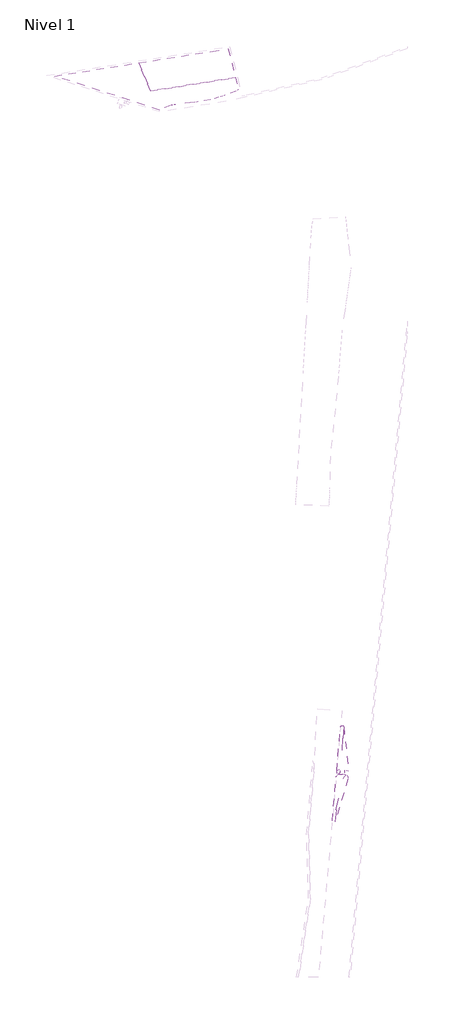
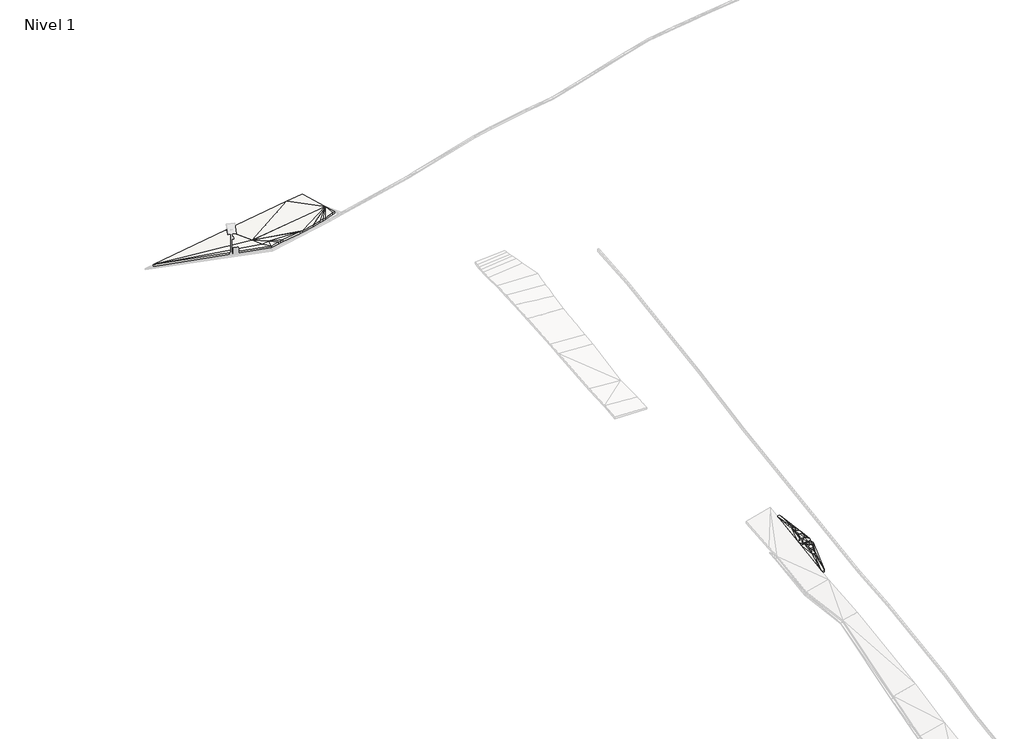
# One storey, part 2 of 45: 4 slabs.
"""IFC4 building model written with IfcOpenShell, lengths in millimetres."""

from ifc_helpers import new_model, si_unit, frame, origin, place, context, project, spatial, circle_curve, faceted_brep, element, save
from ifc_brep_helpers import plane_surface, cylinder_surface, spline_surface, advanced_brep

model = new_model("IFC4")

# Units and contexts
model_context = context("Model", 3, world=origin())
ifc_project = project(units=[si_unit("LENGTHUNIT", "METRE", prefix="MILLI")], contexts=[model_context])

# Site, building, storey
site = spatial("IfcSite", under=ifc_project)
building = spatial("IfcBuilding", under=site)
storey = spatial("IfcBuildingStorey", under=building, Name="Nivel 1", Elevation=0.0)

# Slabs
placement = place(None, origin())
element("IfcSlab", 1, ObjectType="Tierra de Chacra (50cm)", at=placement, inside=storey, context=model_context, shape_type="Brep", body=[
    faceted_brep([(-214605.8709473, -584189.4946046, 2846.5235337), (-214605.8709473, -584189.4946046, 3346.5235337), (-203337.4229653, -582411.4212803, 3434.9028744), (-200458.3355056, -581957.1237037, 3430.3855708), (-200458.3355056, -581957.1237037, 2930.3855708), (-203337.4229653, -582411.4212803, 2934.9028744), (-199286.9548967, -586530.4404212, 3600.0), (-199286.9548967, -586530.4404212, 3100.0), (-212711.5388925, -588648.7352154, 3600.0), (-212711.5388925, -588648.7352154, 3100.0)], [[[0, 1, 2, 3, 4, 5]], [[4, 3, 6, 7]], [[7, 6, 8, 9]], [[9, 8, 1, 0]], [[8, 6, 2]], [[9, 5, 7]], [[8, 2, 1]], [[6, 3, 2]], [[9, 0, 5]], [[7, 5, 4]]]),
])
element("IfcSlab", 2, ObjectType="Girasol Silvestre", at=placement, inside=storey, context=model_context, shape_type="Brep", body=[
    faceted_brep([(-227929.9128446, -586291.9246381, 2857.0), (-227929.9128446, -586291.9246381, 3157.0), (-214605.8709473, -584189.4946046, 3346.5235337), (-214605.8709473, -584189.4946046, 3046.5235337), (-212711.5388925, -588648.7352154, 3600.0), (-212711.5388925, -588648.7352154, 3300.0), (-199286.9548967, -586530.4404212, 3600.0), (-199286.9548967, -586530.4404212, 3300.0), (-198791.9475636, -588463.053352, 3720.0), (-198791.9475636, -588463.053352, 3420.0), (-209681.045062, -590988.7644648, 3300.0), (-209681.045062, -590988.7644648, 3600.0), (-211275.227181, -591665.9897039, 3880.0), (-211275.227181, -591665.9897039, 3580.0), (-199210.5864613, -588656.8058947, 3740.0), (-199210.5864613, -588656.8058947, 3440.0), (-200915.9879606, -589347.8554003, 3814.3627015), (-200915.9879606, -589347.8554003, 3514.3627015), (-201343.2495588, -589455.7048612, 3810.6369502), (-201343.2495588, -589455.7048612, 3510.6369502), (-201939.9399211, -589626.8370673, 3812.0645264), (-201939.9399211, -589626.8370673, 3512.0645264), (-203270.6974609, -590072.2608808, 3835.85584), (-203270.6974609, -590072.2608808, 3535.85584), (-205254.1318211, -590334.0768144, 3741.3644216), (-205254.1318211, -590334.0768144, 3441.3644216), (-205683.9672257, -590450.6060649, 3740.2116166), (-205683.9672257, -590450.6060649, 3440.2116166), (-208812.0316945, -590802.733779, 3600.0), (-208812.0316945, -590802.733779, 3300.0), (-209216.0276751, -590889.2176617, 3600.0), (-209216.0276751, -590889.2176617, 3300.0), (-210777.3691596, -590142.2257161, 3650.0), (-210777.3691596, -590142.2257161, 3350.0), (-211956.8226776, -590234.1646654, 3600.0), (-211956.8226776, -590234.1646654, 3300.0)], [[[0, 1, 2, 3]], [[3, 2, 4, 5]], [[5, 4, 6, 7]], [[7, 6, 8, 9]], [[10, 11, 12, 13]], [[13, 12, 1, 0]], [[4, 2, 1]], [[5, 0, 3]], [[9, 8, 14, 15]], [[15, 14, 16, 17]], [[17, 16, 18, 19]], [[19, 18, 20, 21]], [[21, 20, 22, 23]], [[23, 22, 24, 25]], [[25, 24, 26, 27]], [[27, 26, 28, 29]], [[29, 28, 30, 31]], [[31, 30, 11, 10]], [[12, 11, 32]], [[6, 4, 24]], [[13, 33, 10]], [[7, 25, 5]], [[12, 34, 1]], [[13, 0, 35]], [[4, 34, 32]], [[4, 1, 34]], [[12, 32, 34]], [[5, 33, 35]], [[5, 35, 0]], [[13, 35, 33]], [[11, 30, 28, 32]], [[4, 32, 26]], [[28, 26, 32]], [[10, 33, 29, 31]], [[5, 27, 33]], [[29, 33, 27]], [[4, 26, 24]], [[5, 25, 27]], [[6, 24, 22]], [[6, 22, 20]], [[7, 23, 25]], [[7, 21, 23]], [[6, 20, 18]], [[7, 19, 21]], [[6, 18, 16]], [[7, 17, 19]], [[6, 16, 14]], [[7, 15, 17]], [[6, 14, 8]], [[7, 9, 15]]]),
])
element("IfcSlab", 3, ObjectType="Lippia", at=placement, inside=storey, context=model_context, shape_type="AdvancedBrep", body=[
    advanced_brep(
    [(-182806.3742206, -696735.4883873, 4700.0), (-182806.3742206, -696735.4883873, 5000.0), (-181915.9101008, -696815.5121007, 5000.0), (-181915.9101008, -696815.5121007, 4700.0), (-181480.9632714, -697456.1862832, 5000.0), (-181480.9632714, -697456.1862832, 4700.0), (-183473.8570029, -704231.970058, 5000.0), (-183473.8570029, -704231.970058, 4700.0), (-183966.2331915, -704138.2411218, 4700.0), (-183966.2331915, -704138.2411218, 5000.0), (-183347.3395846, -697188.3197303, 5000.0), (-183347.3395846, -697188.3197303, 4700.0), (-182182.1019668, -697458.7084732, 5300.0), (-182636.2415316, -697248.151503, 5300.0), (-182182.1019668, -697458.7084732, 5000.0), (-182636.2415316, -697248.151503, 5000.0), (-182571.1829569, -699136.4501452, 5500.0), (-182399.5385994, -698903.0238309, 5500.0), (-182227.8942418, -698669.5975165, 5500.0), (-182312.8363702, -698300.2855735, 5500.0), (-182757.7595738, -698362.4906805, 5500.0), (-182879.5136938, -698624.4029621, 5500.0), (-182980.0676284, -698840.7103069, 5500.0), (-182899.4460108, -699206.0555535, 5500.0), (-182571.1829569, -699136.4501452, 5200.0), (-182899.4460108, -699206.0555535, 5200.0), (-182980.0676284, -698840.7103069, 5200.0), (-182879.5136938, -698624.4029621, 5200.0), (-182757.7595738, -698362.4906805, 5200.0), (-182312.8363702, -698300.2855735, 5200.0), (-182227.8942418, -698669.5975165, 5200.0), (-182399.5385994, -698903.0238309, 5200.0), (-182990.6788258, -697456.1344768, 5300.0), (-182867.9136181, -697259.3453471, 5300.0), (-182990.6788258, -697456.1344768, 5000.0), (-182867.9136181, -697259.3453471, 5000.0), (-181928.041622, -697718.6144124, 5300.0), (-181928.041622, -697718.6144124, 5000.0), (-181917.1096309, -698081.9025178, 5300.0), (-182734.9495074, -700413.0157934, 5300.0), (-182734.9495074, -700413.0157934, 5000.0), (-181917.1096309, -698081.9025178, 5000.0), (-183220.0476353, -700310.2043524, 5300.0), (-183220.0476353, -700310.2043524, 5000.0), (-183022.6755652, -700574.8216425, 5300.0), (-183022.6755652, -700574.8216425, 5000.0)],
    [
        (0, 1),
        (1, 2),
        (2, 3),
        (3, 0),
        (2, 4, circle_curve(frame((-181960.1868636, -697313.5512671, 5000.0), z_axis=(0.0, 0.0, -1.0), x_axis=(1.0, 0.0, 0.0)), 499.9999992)),
        (4, 5),
        (5, 3, circle_curve(frame((-181960.1868636, -697313.5512671, 4700.0), z_axis=(0.0, 0.0, 1.0), x_axis=(1.0, 0.0, 0.0)), 499.9999992)),
        (4, 6),
        (6, 7),
        (7, 5),
        (8, 9),
        (9, 10),
        (10, 11),
        (11, 8),
        (10, 1, circle_curve(frame((-182848.2404431, -697235.0158656, 5000.0), z_axis=(0.0, 0.0, -1.0), x_axis=(1.0, 0.0, 0.0)), 501.2788467)),
        (0, 11, circle_curve(frame((-182848.2404431, -697235.0158656, 4700.0), z_axis=(0.0, 0.0, 1.0), x_axis=(1.0, 0.0, 0.0)), 501.2788467)),
        (2, 12),
        (12, 4),
        (1, 13),
        (13, 2),
        (5, 14),
        (14, 3),
        (3, 15),
        (15, 0),
        (16, 17),
        (17, 18),
        (18, 19),
        (19, 20),
        (20, 21),
        (21, 22),
        (22, 23),
        (23, 16),
        (24, 25),
        (25, 26),
        (26, 27),
        (27, 28),
        (28, 29),
        (29, 30),
        (30, 31),
        (31, 24),
        (20, 32),
        (32, 22),
        (10, 32),
        (32, 33),
        (33, 10),
        (19, 32),
        (26, 34),
        (34, 28),
        (11, 35),
        (35, 34),
        (34, 11),
        (34, 29),
        (32, 12),
        (12, 13),
        (13, 33),
        (19, 12),
        (12, 36),
        (36, 4),
        (35, 15),
        (15, 14),
        (14, 34),
        (14, 29),
        (5, 37),
        (37, 14),
        (4, 38),
        (38, 39),
        (39, 4),
        (19, 38),
        (38, 36),
        (36, 19),
        (5, 40),
        (40, 41),
        (41, 5),
        (29, 37),
        (37, 41),
        (41, 29),
        (22, 42),
        (42, 23),
        (23, 39),
        (39, 16),
        (39, 18),
        (25, 43),
        (43, 26),
        (24, 40),
        (40, 25),
        (30, 40),
        (42, 39),
        (40, 43),
        (1, 33),
        (35, 0),
        (10, 42),
        (42, 32),
        (42, 44),
        (44, 39),
        (18, 38),
        (34, 43),
        (43, 11),
        (40, 45),
        (45, 43),
        (41, 30),
        (6, 9, circle_curve(frame((-183715.4670107, -704161.0560182, 5000.0), z_axis=(0.0, 0.0, -1.0), x_axis=(1.0, 0.0, 0.0)), 251.8019001)),
        (8, 7, circle_curve(frame((-183715.4670107, -704161.0560182, 4700.0), z_axis=(0.0, 0.0, 1.0), x_axis=(1.0, 0.0, 0.0)), 251.8019001)),
        (44, 9),
        (6, 44),
        (9, 42),
        (6, 39),
        (45, 7),
        (8, 45),
        (43, 8),
        (40, 7),
    ],
    [
        plane_surface(frame((-182806.3742206, -696735.4883873, 4700.0), z_axis=(0.08950671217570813, 0.9959862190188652, 0.0), x_axis=(0.0, 0.0, 1.0))),
        cylinder_surface(frame((-181960.1868636, -697313.5512671, 5000.0), z_axis=(0.0, 0.0, -1.0), x_axis=(1.0, 0.0, 0.0)), 499.9999992),
        plane_surface(frame((-181480.9632714, -697456.1862832, 4700.0), z_axis=(0.9593648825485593, -0.2821684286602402, 0.0), x_axis=(0.0, 0.0, 1.0))),
        plane_surface(frame((-183966.2331915, -704138.2411218, 4700.0), z_axis=(-0.996058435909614, 0.08869944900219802, 0.0), x_axis=(0.0, 0.0, 1.0))),
        cylinder_surface(frame((-182848.2404431, -697235.0158656, 5000.0), z_axis=(0.0, 0.0, -1.0), x_axis=(1.0, 0.0, 0.0)), 501.2788467),
        spline_surface(2, 1, [[(-181480.9632714, -697456.1862832, 5000.0), (-182182.1019668, -697458.7084732, 5300.0)], [(-181413.3155347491, -697228.9041455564, 5000.0), (-182182.1019668, -697458.7084732, 5300.0)], [(-181546.51086866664, -697032.7093714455, 5000.0), (-182182.1019668, -697458.7084732, 5300.0)], [(-181679.7062026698, -696836.514597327, 5000.0), (-182182.1019668, -697458.7084732, 5300.0)], [(-181915.9104058, -696815.5155309, 5000.0), (-182182.1019668, -697458.7084732, 5300.0)]], [3, 2, 3], [2, 2], [0.0, 1.0, 2.0], [0.0, 1.0], weights=[[1.0, 1.0], [0.9035324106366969, 0.9035324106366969], [1.0, 1.0], [0.9035324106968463, 0.9035324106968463], [1.0, 1.0]]),
        plane_surface(frame((-182452.841951, -696933.0506637, 5100.0), z_axis=(0.0463656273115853, 0.5159336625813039, 0.8553728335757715), x_axis=(-0.9959862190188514, 0.08950671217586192, 0.0))),
        spline_surface(1, 2, [[(-181480.9632714, -697456.1862832, 4700.0), (-181413.3155347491, -697228.9041455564, 4700.0), (-181546.51086866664, -697032.7093714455, 4700.0), (-181679.7062026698, -696836.514597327, 4700.0), (-181915.9104058, -696815.5155309, 4700.0)], [(-182182.1019668, -697458.7084732, 5000.0), (-182182.1019668, -697458.7084732, 5000.0), (-182182.1019668, -697458.7084732, 5000.0), (-182182.1019668, -697458.7084732, 5000.0), (-182182.1019668, -697458.7084732, 5000.0)]], [2, 2], [3, 2, 3], [0.0, 1.0], [0.0, 1.0, 2.0], weights=[[1.0, 0.9035324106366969, 1.0, 0.9035324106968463, 1.0], [1.0, 0.9035324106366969, 1.0, 0.9035324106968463, 1.0]]),
        plane_surface(frame((-182452.841951, -696933.0506637, 4800.0), z_axis=(-0.0463656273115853, -0.5159336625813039, -0.8553728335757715), x_axis=(-0.9959862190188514, 0.08950671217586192, 0.0))),
        plane_surface(frame((-182624.8644637, -698752.598296, 5500.0), z_axis=(0.0, 0.0, 1.0), x_axis=(0.5924069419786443, 0.8056388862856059, 0.0))),
        plane_surface(frame((-182624.8644637, -698752.598296, 5200.0), z_axis=(0.0, 0.0, -1.0), x_axis=(0.5924069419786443, 0.8056388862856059, 0.0))),
        plane_surface(frame((-182909.5020094, -698219.7784881, 5433.3333333), z_axis=(-0.28967515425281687, 0.13466013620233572, 0.9476048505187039), x_axis=(0.42154416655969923, 0.9068078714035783, 0.0))),
        plane_surface(frame((-183068.6440095, -697301.2665181, 5200.0), z_axis=(-0.47474294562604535, 0.29616430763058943, 0.8287978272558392), x_axis=(0.6635257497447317, -0.4982381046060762, 0.5581150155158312))),
        plane_surface(frame((-182687.09159, -698039.6369103, 5433.3333333), z_axis=(-0.029115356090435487, 0.20824813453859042, 0.9776425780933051), x_axis=(-0.6156961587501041, 0.766757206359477, -0.18166349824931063))),
        plane_surface(frame((-182909.5020094, -698219.7784881, 5133.3333333), z_axis=(0.28967515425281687, -0.13466013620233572, -0.9476048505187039), x_axis=(0.42154416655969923, 0.9068078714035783, 0.0))),
        plane_surface(frame((-183068.6440095, -697301.2665181, 4900.0), z_axis=(0.47474294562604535, -0.29616430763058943, -0.8287978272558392), x_axis=(0.6635257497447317, -0.4982381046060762, 0.5581150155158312))),
        plane_surface(frame((-182687.09159, -698039.6369103, 5133.3333333), z_axis=(0.029115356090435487, -0.20824813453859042, -0.9776425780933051), x_axis=(-0.6156961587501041, 0.766757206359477, -0.18166349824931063))),
        plane_surface(frame((-182669.2339856, -697355.58495, 5300.0), z_axis=(0.0, 0.0, 1.0), x_axis=(0.9999949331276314, -0.003183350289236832, 0.0))),
        plane_surface(frame((-182495.2057209, -697738.3761745, 5366.6666667), z_axis=(0.0007356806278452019, 0.23110146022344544, 0.9729293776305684), x_axis=(0.14943822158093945, 0.9619792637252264, -0.22861346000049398))),
        plane_surface(frame((-181863.7022867, -697544.5030563, 5200.0), z_axis=(0.3662198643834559, 0.35798314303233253, 0.8589127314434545), x_axis=(-0.919371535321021, -0.00330723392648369, 0.39337646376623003))),
        plane_surface(frame((-182244.7511997, -697174.1240256, 5200.0), z_axis=(0.16659880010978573, 0.35932843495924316, 0.9182199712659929), x_axis=(-0.8073484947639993, -0.4849028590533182, 0.33624042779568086))),
        plane_surface(frame((-182669.2339856, -697355.58495, 5000.0), z_axis=(0.0, 0.0, -1.0), x_axis=(0.9999949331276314, -0.003183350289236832, 0.0))),
        plane_surface(frame((-182495.2057209, -697738.3761745, 5066.6666667), z_axis=(-0.0007356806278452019, -0.23110146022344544, -0.9729293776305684), x_axis=(0.14943822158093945, 0.9619792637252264, -0.22861346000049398))),
        plane_surface(frame((-181863.7022867, -697544.5030563, 4900.0), z_axis=(-0.3662198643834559, -0.35798314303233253, -0.8589127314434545), x_axis=(-0.919371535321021, -0.00330723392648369, 0.39337646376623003))),
        plane_surface(frame((-182244.7511997, -697174.1240256, 4900.0), z_axis=(-0.16659880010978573, -0.35932843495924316, -0.9182199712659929), x_axis=(-0.8073484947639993, -0.4849028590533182, 0.33624042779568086))),
        plane_surface(frame((-182044.3408032, -698650.3681981, 5200.0), z_axis=(0.7798051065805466, -0.27358417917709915, 0.5630769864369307), x_axis=(-0.5321452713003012, -0.7634408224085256, 0.36603213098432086))),
        plane_surface(frame((-182052.662541, -698033.6008345, 5366.6666667), z_axis=(0.44512625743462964, 0.013394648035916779, 0.8953676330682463), x_axis=(0.8006483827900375, 0.44184034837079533, -0.40464709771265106))),
        plane_surface(frame((-182044.3408032, -698650.3681981, 4900.0), z_axis=(-0.7798051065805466, 0.27358417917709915, -0.5630769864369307), x_axis=(-0.5321452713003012, -0.7634408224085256, 0.36603213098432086))),
        plane_surface(frame((-182052.662541, -698033.6008345, 5066.6666667), z_axis=(-0.44512625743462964, -0.013394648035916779, -0.8953676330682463), x_axis=(0.8006483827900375, 0.44184034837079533, -0.40464709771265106))),
        plane_surface(frame((-183033.1870915, -699452.3234043, 5433.3333333), z_axis=(-0.33317899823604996, -0.07352341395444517, 0.9399925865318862), x_axis=(-0.21548804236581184, 0.9765064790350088, 0.0))),
        plane_surface(frame((-182735.192825, -699585.1738307, 5433.3333333), z_axis=(0.033695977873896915, -0.1589121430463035, 0.9867175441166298), x_axis=(-0.9782499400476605, -0.20742963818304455, 0.0))),
        plane_surface(frame((-182511.3422354, -699406.354485, 5433.3333333), z_axis=(0.2457854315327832, -0.1807323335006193, 0.9523262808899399), x_axis=(-0.12573495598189, -0.9801081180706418, -0.15355389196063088))),
        plane_surface(frame((-183033.1870915, -699452.3234043, 5133.3333333), z_axis=(0.33317899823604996, 0.07352341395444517, -0.9399925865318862), x_axis=(-0.21548804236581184, 0.9765064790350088, 0.0))),
        plane_surface(frame((-182735.192825, -699585.1738307, 5133.3333333), z_axis=(-0.033695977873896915, 0.1589121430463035, -0.9867175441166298), x_axis=(-0.9782499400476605, -0.20742963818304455, 0.0))),
        plane_surface(frame((-182511.3422354, -699406.354485, 5133.3333333), z_axis=(-0.2457854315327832, 0.1807323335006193, -0.9523262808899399), x_axis=(-0.12573495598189, -0.9801081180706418, -0.15355389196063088))),
        plane_surface(frame((-182951.4810512, -699976.4252331, 5366.6666667), z_axis=(-0.035626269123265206, -0.1680964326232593, 0.9851265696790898), x_axis=(-0.27471876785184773, -0.9461286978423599, -0.1713770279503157))),
        plane_surface(frame((-182951.4810512, -699976.4252331, 5066.6666667), z_axis=(0.035626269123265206, 0.1680964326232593, -0.9851265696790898), x_axis=(-0.27471876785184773, -0.9461286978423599, -0.1713770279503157))),
        plane_surface(frame((-182770.1764568, -697080.9950791, 5200.0), z_axis=(-0.02410764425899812, 0.4989410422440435, 0.8663005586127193), x_axis=(-0.10141531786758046, -0.8633025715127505, 0.4943921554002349))),
        spline_surface(2, 1, [[(-182806.3742206, -696735.4883873, 5000.0), (-182867.9136181, -697259.3453471, 5300.0)], [(-183301.09297208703, -696694.0251920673, 5000.0), (-182867.9136181, -697259.3453471, 5300.0)], [(-183347.3395846, -697188.3197303, 5000.0), (-182867.9136181, -697259.3453471, 5300.0)]], [3, 3], [2, 2], [0.0, 1.0], [0.0, 1.0], weights=[[1.0, 1.0], [0.7105184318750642, 0.7105184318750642], [1.0, 1.0]]),
        plane_surface(frame((-182770.1764568, -697080.9950791, 4900.0), z_axis=(0.02410764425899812, -0.4989410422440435, -0.8663005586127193), x_axis=(-0.10141531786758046, -0.8633025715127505, 0.4943921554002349))),
        spline_surface(1, 2, [[(-182806.3742206, -696735.4883873, 4700.0), (-183301.09297208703, -696694.0251920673, 4700.0), (-183347.3395846, -697188.3197303, 4700.0)], [(-182867.9136181, -697259.3453471, 5000.0), (-182867.9136181, -697259.3453471, 5000.0), (-182867.9136181, -697259.3453471, 5000.0)]], [2, 2], [3, 3], [0.0, 1.0], [0.0, 1.0], weights=[[1.0, 0.7105184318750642, 1.0], [1.0, 0.7105184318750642, 1.0]]),
        plane_surface(frame((-182140.9933197, -697825.8694864, 5366.6666667), z_axis=(0.20129640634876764, 0.19676901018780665, 0.9595632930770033), x_axis=(0.5303563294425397, 0.8017078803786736, -0.27565674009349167))),
        plane_surface(frame((-182140.9933197, -697825.8694864, 5066.6666667), z_axis=(-0.20129640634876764, -0.19676901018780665, -0.9595632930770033), x_axis=(0.5303563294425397, 0.8017078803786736, -0.27565674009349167))),
        plane_surface(frame((-183186.0220153, -698318.2195199, 5200.0), z_axis=(-0.6206987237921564, 0.04988277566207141, 0.7824607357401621), x_axis=(0.04055371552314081, -0.9945956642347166, 0.0955764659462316))),
        plane_surface(frame((-182992.5575693, -700432.6805961, 5300.0), z_axis=(0.0, 0.0, 1.0), x_axis=(-0.9782701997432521, 0.20733406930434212, 0.0))),
        plane_surface(frame((-182152.6134143, -698350.5952026, 5433.3333333), z_axis=(0.40740723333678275, 0.09370408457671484, 0.908426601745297), x_axis=(0.22414864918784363, -0.9745549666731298, 0.0))),
        plane_surface(frame((-181775.3715081, -697752.2344045, 5200.0), z_axis=(0.5504040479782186, 0.01656264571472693, 0.8347341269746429), x_axis=(-0.7464301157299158, -0.4381430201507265, 0.5008720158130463))),
        plane_surface(frame((-183186.0220153, -698318.2195199, 4900.0), z_axis=(0.6206987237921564, -0.04988277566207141, -0.7824607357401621), x_axis=(0.04055371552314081, -0.9945956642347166, 0.0955764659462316))),
        plane_surface(frame((-182992.5575693, -700432.6805961, 5000.0), z_axis=(0.0, 0.0, -1.0), x_axis=(-0.9782701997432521, 0.20733406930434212, 0.0))),
        plane_surface(frame((-182152.6134143, -698350.5952026, 5133.3333333), z_axis=(-0.40740723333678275, -0.09370408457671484, -0.908426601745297), x_axis=(0.22414864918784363, -0.9745549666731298, 0.0))),
        plane_surface(frame((-181775.3715081, -697752.2344045, 4900.0), z_axis=(-0.5504040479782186, -0.01656264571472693, -0.8347341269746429), x_axis=(-0.7464301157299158, -0.4381430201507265, 0.5008720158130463))),
        plane_surface(frame((-183063.5980299, -698869.0163787, 5366.6666667), z_axis=(-0.8519212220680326, 0.06846509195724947, 0.5191750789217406), x_axis=(-0.0075849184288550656, 0.9896993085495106, -0.14296065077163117))),
        plane_surface(frame((-183063.5980299, -698869.0163787, 5066.6666667), z_axis=(0.8519212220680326, -0.06846509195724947, -0.5191750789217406), x_axis=(-0.0075849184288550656, 0.9896993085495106, -0.14296065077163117))),
        plane_surface(frame((-182293.3177933, -699054.8386092, 5366.6666667), z_axis=(0.8461782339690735, -0.296870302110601, 0.4425499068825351), x_axis=(-0.2775891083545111, -0.9544401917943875, -0.10949067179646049))),
        plane_surface(frame((-182293.3177933, -699054.8386092, 5066.6666667), z_axis=(-0.8461782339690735, 0.296870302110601, -0.4425499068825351), x_axis=(-0.2775891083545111, -0.9544401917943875, -0.10949067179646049))),
        cylinder_surface(frame((-183715.4670107, -704161.0560182, 5000.0), z_axis=(0.0, 0.0, -1.0), x_axis=(1.0, 0.0, 0.0)), 251.8019001),
        spline_surface(2, 1, [[(-183966.2331915, -704138.2411218, 5000.0), (-183022.6755652, -700574.8216425, 5300.0)], [(-183986.9279527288, -704365.7041856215, 5000.0), (-183022.6755652, -700574.8216425, 5300.0)], [(-183762.55455944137, -704408.4159981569, 5000.0), (-183022.6755652, -700574.8216425, 5300.0)], [(-183538.1811661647, -704451.1278107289, 5000.0), (-183022.6755652, -700574.8216425, 5300.0)], [(-183473.8570029, -704231.970058, 5000.0), (-183022.6755652, -700574.8216425, 5300.0)]], [3, 2, 3], [2, 2], [0.0, 1.0, 2.0], [0.0, 1.0], weights=[[1.0, 1.0], [0.7406838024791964, 0.7406838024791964], [1.0, 1.0], [0.7406838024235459, 0.7406838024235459], [1.0, 1.0]]),
        plane_surface(frame((-183511.2068038, -700545.5884015, 5100.0), z_axis=(-0.5941124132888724, 0.052905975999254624, 0.8026402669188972), x_axis=(-0.08869944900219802, -0.996058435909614, 0.0))),
        plane_surface(frame((-183402.985464, -701674.4223722, 5200.0), z_axis=(-0.08285402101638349, -0.06179894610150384, 0.9946437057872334), x_axis=(-0.19076196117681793, -0.9786356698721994, -0.07669484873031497))),
        plane_surface(frame((-183077.1606918, -701739.9358313, 5200.0), z_axis=(0.049318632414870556, -0.08769927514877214, 0.9949253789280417), x_axis=(-0.8716273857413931, -0.49016905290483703, 0.0))),
        plane_surface(frame((-182563.2565939, -700700.3907115, 5100.0), z_axis=(0.6054862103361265, -0.17808562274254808, 0.775675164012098), x_axis=(-0.3887451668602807, -0.9166393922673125, 0.0930022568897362))),
        spline_surface(1, 2, [[(-183966.2331915, -704138.2411218, 4700.0), (-183986.9279527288, -704365.7041856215, 4700.0), (-183762.55455944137, -704408.4159981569, 4700.0), (-183538.1811661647, -704451.1278107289, 4700.0), (-183473.8570029, -704231.970058, 4700.0)], [(-183022.6755652, -700574.8216425, 5000.0), (-183022.6755652, -700574.8216425, 5000.0), (-183022.6755652, -700574.8216425, 5000.0), (-183022.6755652, -700574.8216425, 5000.0), (-183022.6755652, -700574.8216425, 5000.0)]], [2, 2], [3, 2, 3], [0.0, 1.0], [0.0, 1.0, 2.0], weights=[[1.0, 0.7406838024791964, 1.0, 0.7406838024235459, 1.0], [1.0, 0.7406838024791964, 1.0, 0.7406838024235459, 1.0]]),
        plane_surface(frame((-183511.2068038, -700545.5884015, 4800.0), z_axis=(0.5941124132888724, -0.052905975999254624, -0.8026402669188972), x_axis=(-0.08869944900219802, -0.996058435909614, 0.0))),
        plane_surface(frame((-183402.985464, -701674.4223722, 4900.0), z_axis=(0.08285402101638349, 0.06179894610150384, -0.9946437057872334), x_axis=(-0.19076196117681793, -0.9786356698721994, -0.07669484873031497))),
        plane_surface(frame((-183077.1606918, -701739.9358313, 4900.0), z_axis=(-0.049318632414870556, 0.08769927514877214, -0.9949253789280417), x_axis=(-0.8716273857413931, -0.49016905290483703, 0.0))),
        plane_surface(frame((-182563.2565939, -700700.3907115, 4800.0), z_axis=(-0.6054862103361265, 0.17808562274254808, -0.775675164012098), x_axis=(-0.3887451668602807, -0.9166393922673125, 0.0930022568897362))),
    ],
    [
        (0, [[1, 2, 3, 4]]),
        (1, [[-3, 5, 6, 7]]),
        (2, [[-6, 8, 9, 10]]),
        (3, [[11, 12, 13, 14]]),
        (4, [[-13, 15, -1, 16]]),
        (5, [[-5, 17, 18]]),
        (6, [[-2, 19, 20]]),
        (7, [[21, 22, -7]]),
        (8, [[23, 24, -4]]),
        (9, [[25, 26, 27, 28, 29, 30, 31, 32]]),
        (10, [[33, 34, 35, 36, 37, 38, 39, 40]]),
        (11, [[-29, 41, 42, -30]]),
        (12, [[43, 44, 45]]),
        (13, [[46, -41, -28]]),
        (14, [[-35, 47, 48, -36]]),
        (15, [[49, 50, 51]]),
        (16, [[-37, -48, 52]]),
        (17, [[53, 54, 55, -44]]),
        (18, [[56, -53, -46]]),
        (19, [[-18, 57, 58]]),
        (20, [[-20, -54, -17]]),
        (21, [[-50, 59, 60, 61]]),
        (22, [[-52, -61, 62]]),
        (23, [[63, 64, -21]]),
        (24, [[-22, -60, -23]]),
        (25, [[65, 66, 67]]),
        (26, [[68, 69, 70]]),
        (27, [[71, 72, 73]]),
        (28, [[74, 75, 76]]),
        (29, [[-31, 77, 78]]),
        (30, [[-32, 79, 80]]),
        (31, [[-80, 81, -26, -25]]),
        (32, [[82, 83, -34]]),
        (33, [[84, 85, -33]]),
        (34, [[-40, -39, 86, -84]]),
        (35, [[-78, 87, -79]]),
        (36, [[-85, 88, -82]]),
        (37, [[89, -55, -19]]),
        (38, [[-45, -89, -15]]),
        (39, [[-24, -59, 90]]),
        (40, [[-16, -90, -49]]),
        (41, [[-70, -57, -56]]),
        (42, [[-62, -64, -74]]),
        (43, [[91, 92, -43]]),
        (44, [[-87, 93, 94]]),
        (45, [[-27, 95, -68]]),
        (46, [[-58, -69, -65]]),
        (47, [[-51, 96, 97]]),
        (48, [[98, 99, -88]]),
        (49, [[-76, 100, -38]]),
        (50, [[-73, -75, -63]]),
        (51, [[-42, -92, -77]]),
        (52, [[-83, -96, -47]]),
        (53, [[-81, -66, -95]]),
        (54, [[-100, -72, -86]]),
        (55, [[-9, 101, -11, 102]]),
        (56, [[103, -101, 104]]),
        (57, [[-12, 105, -91]]),
        (58, [[-105, -103, -93]]),
        (59, [[-94, -104, 106]]),
        (60, [[-67, -106, -8]]),
        (61, [[107, -102, 108]]),
        (62, [[-97, 109, -14]]),
        (63, [[-99, -108, -109]]),
        (64, [[110, -107, -98]]),
        (65, [[-10, -110, -71]]),
    ],
),
])
element("IfcSlab", 4, ObjectType="Lippia", at=placement, inside=storey, context=model_context, shape_type="AdvancedBrep", body=[
    advanced_brep(
    [(-181956.8629594, -696811.9087039, 4700.0), (-181956.8629594, -696811.9087039, 5000.0), (-182806.4815672, -696737.1516634, 5000.0), (-182806.4815672, -696737.1516634, 4700.0), (-181369.9989395, -696261.0919211, 4700.0), (-181369.9989395, -696261.0919211, 5000.0), (-182140.9192345, -689241.295213, 4700.0), (-182140.9192345, -689241.295213, 5000.0), (-183258.9770709, -696196.0449392, 4700.0), (-183258.9770709, -696196.0449392, 5000.0), (-182638.6691957, -689230.2418945, 5000.0), (-182638.6691957, -689230.2418945, 4700.0), (-181895.9200343, -694935.467778, 5500.0), (-182151.4673675, -694415.3773249, 5500.0), (-182464.7179689, -694302.3505946, 5500.0), (-182620.1820508, -694600.8435536, 5500.0), (-182545.2927579, -694865.0013045, 5500.0), (-182470.3805144, -695167.4184055, 5500.0), (-182044.6803396, -695284.0030674, 5500.0), (-182061.2920464, -696147.3561091, 5300.0), (-182549.9209311, -696275.7823695, 5300.0), (-181895.9200343, -694935.467778, 5200.0), (-182044.6803396, -695284.0030674, 5200.0), (-182470.3805144, -695167.4184055, 5200.0), (-182545.2927579, -694865.0013045, 5200.0), (-182620.1820508, -694600.8435536, 5200.0), (-182464.7179689, -694302.3505946, 5200.0), (-182151.4673675, -694415.3773249, 5200.0), (-182061.2920464, -696147.3561091, 5000.0), (-182549.9209311, -696275.7823695, 5000.0), (-182089.5808938, -693143.0206024, 5300.0), (-182585.2038573, -693158.7630825, 5300.0), (-182089.5808938, -693143.0206024, 5000.0), (-182585.2038573, -693158.7630825, 5000.0), (-182862.3015434, -696009.7962978, 5300.0), (-182758.2338929, -696238.6662001, 5300.0), (-182862.3015434, -696009.7962978, 5000.0), (-182758.2338929, -696238.6662001, 5000.0), (-181768.9564668, -695935.9474785, 5300.0), (-181768.9564668, -695935.9474785, 5000.0), (-181694.9843648, -695582.8443374, 5300.0), (-181694.9843648, -695582.8443374, 5000.0), (-182344.304857, -692933.0607972, 5300.0), (-182344.304857, -692933.0607972, 5000.0)],
    [
        (0, 1),
        (1, 2),
        (2, 3),
        (3, 0),
        (4, 5),
        (5, 1, circle_curve(frame((-181869.250197, -696317.2115857, 5000.0), z_axis=(0.0, 0.0, -1.0), x_axis=(-0.1764100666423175, -0.9843167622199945, 0.0)), 502.3954964)),
        (0, 4, circle_curve(frame((-181869.250197, -696317.2115857, 4700.0), z_axis=(0.0, 0.0, 1.0), x_axis=(-0.1764100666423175, -0.9843167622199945, 0.0)), 502.3954964)),
        (6, 7),
        (7, 5),
        (4, 6),
        (8, 9),
        (9, 10),
        (10, 11),
        (11, 8),
        (2, 9, circle_curve(frame((-182759.5378956, -696238.144495, 5000.0), z_axis=(0.0, 0.0, -1.0), x_axis=(-0.1764100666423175, -0.9843167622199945, 0.0)), 501.2103973)),
        (8, 3, circle_curve(frame((-182759.5378956, -696238.144495, 4700.0), z_axis=(0.0, 0.0, 1.0), x_axis=(-0.1764100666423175, -0.9843167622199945, 0.0)), 501.2103973)),
        (12, 13),
        (13, 14),
        (14, 15),
        (15, 16),
        (16, 17),
        (17, 18),
        (18, 12),
        (5, 19),
        (19, 1),
        (1, 20),
        (20, 2),
        (21, 22),
        (22, 23),
        (23, 24),
        (24, 25),
        (25, 26),
        (26, 27),
        (27, 21),
        (0, 28),
        (28, 4),
        (3, 29),
        (29, 0),
        (13, 30),
        (30, 14),
        (14, 31),
        (31, 15),
        (26, 32),
        (32, 27),
        (25, 33),
        (33, 26),
        (30, 31),
        (12, 30),
        (33, 32),
        (32, 21),
        (34, 9),
        (9, 35),
        (35, 34),
        (16, 34),
        (34, 17),
        (36, 37),
        (37, 8),
        (8, 36),
        (23, 36),
        (36, 24),
        (2, 35),
        (35, 20),
        (20, 19),
        (19, 34),
        (37, 3),
        (36, 28),
        (28, 29),
        (29, 37),
        (19, 17),
        (19, 18),
        (5, 38),
        (38, 19),
        (23, 28),
        (22, 28),
        (28, 39),
        (39, 4),
        (40, 18),
        (18, 38),
        (38, 40),
        (40, 5),
        (5, 30),
        (30, 40),
        (41, 39),
        (39, 22),
        (22, 41),
        (41, 32),
        (32, 4),
        (4, 41),
        (34, 15),
        (31, 34),
        (31, 9),
        (36, 33),
        (25, 36),
        (8, 33),
        (40, 12),
        (21, 41),
        (42, 31),
        (30, 42),
        (43, 32),
        (33, 43),
        (10, 7, circle_curve(frame((-182390.5237243, -689268.6196065, 5000.0), z_axis=(0.0, 0.0, -1.0), x_axis=(-0.1764100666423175, -0.9843167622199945, 0.0)), 251.0956467)),
        (6, 11, circle_curve(frame((-182390.5237243, -689268.6196065, 4700.0), z_axis=(0.0, 0.0, 1.0), x_axis=(-0.1764100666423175, -0.9843167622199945, 0.0)), 251.0956467)),
        (31, 10),
        (42, 10),
        (42, 7),
        (30, 7),
        (11, 33),
        (11, 43),
        (6, 43),
        (6, 32),
    ],
    [
        plane_surface(frame((-181956.8629594, -696811.9087039, 4700.0), z_axis=(-0.08765029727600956, -0.9961513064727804, 0.0), x_axis=(0.0, 0.0, 1.0))),
        cylinder_surface(frame((-181869.250197, -696317.2115857, 5000.0), z_axis=(0.0, 0.0, -1.0000000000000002), x_axis=(-0.1764100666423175, -0.9843167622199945, 0.0)), 502.3954964),
        plane_surface(frame((-182140.9192345, -689241.295213, 4700.0), z_axis=(0.9940236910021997, 0.10916456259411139, 0.0), x_axis=(0.0, 0.0, 1.0))),
        plane_surface(frame((-183258.9770709, -696196.0449392, 4700.0), z_axis=(-0.9960584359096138, 0.08869944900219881, 0.0), x_axis=(0.0, 0.0, 1.0))),
        cylinder_surface(frame((-182759.5378956, -696238.144495, 5000.0), z_axis=(0.0, 0.0, -1.0000000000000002), x_axis=(-0.1764100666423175, -0.9843167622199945, 0.0)), 501.2103973),
        plane_surface(frame((-182313.2344333, -694795.7802898, 5500.0), z_axis=(0.0, 0.0, 1.0), x_axis=(-0.4409932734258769, 0.8975104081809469, 0.0))),
        spline_surface(2, 1, [[(-181956.8629594, -696811.9087039, 5000.0), (-182061.2920464, -696147.3561091, 5300.0)], [(-181708.98393014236, -696855.8090334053, 5000.0), (-182061.2920464, -696147.3561091, 5300.0)], [(-181525.4314297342, -696683.5309684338, 5000.0), (-182061.2920464, -696147.3561091, 5300.0)], [(-181341.87892932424, -696511.2529034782, 5000.0), (-182061.2920464, -696147.3561091, 5300.0)], [(-181369.9989395, -696261.0919211, 5000.0), (-182061.2920464, -696147.3561091, 5300.0)]], [3, 2, 3], [2, 2], [0.0, 1.0, 2.0], [0.0, 1.0], weights=[[1.0, 1.0], [0.8940433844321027, 0.8940433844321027], [1.0, 1.0], [0.8940433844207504, 0.8940433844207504], [1.0, 1.0]]),
        plane_surface(frame((-182437.7551526, -696608.2809122, 5100.0), z_axis=(-0.046310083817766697, -0.5263171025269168, 0.8490263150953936), x_axis=(0.9961513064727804, -0.08765029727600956, 0.0))),
        plane_surface(frame((-182313.2344333, -694795.7802898, 5200.0), z_axis=(0.0, 0.0, -1.0), x_axis=(-0.4409932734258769, 0.8975104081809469, 0.0))),
        spline_surface(1, 2, [[(-181956.8629594, -696811.9087039, 4700.0), (-181708.98393014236, -696855.8090334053, 4700.0), (-181525.4314297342, -696683.5309684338, 4700.0), (-181341.87892932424, -696511.2529034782, 4700.0), (-181369.9989395, -696261.0919211, 4700.0)], [(-182061.2920464, -696147.3561091, 5000.0), (-182061.2920464, -696147.3561091, 5000.0), (-182061.2920464, -696147.3561091, 5000.0), (-182061.2920464, -696147.3561091, 5000.0), (-182061.2920464, -696147.3561091, 5000.0)]], [2, 2], [3, 2, 3], [0.0, 1.0], [0.0, 1.0, 2.0], weights=[[1.0, 0.8940433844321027, 1.0, 0.8940433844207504, 1.0], [1.0, 0.8940433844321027, 1.0, 0.8940433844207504, 1.0]]),
        plane_surface(frame((-182437.7551526, -696608.2809122, 4800.0), z_axis=(0.046310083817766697, 0.5263171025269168, -0.8490263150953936), x_axis=(0.9961513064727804, -0.08765029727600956, 0.0))),
        plane_surface(frame((-182235.2554101, -693953.5828406, 5433.3333333), z_axis=(0.055001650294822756, 0.15243562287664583, 0.9867817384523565), x_axis=(0.940641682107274, -0.339401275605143, 0.0))),
        plane_surface(frame((-182556.7012923, -694020.6524102, 5433.3333333), z_axis=(-0.2663943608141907, 0.1387461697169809, 0.9538257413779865), x_axis=(0.4619320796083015, 0.8869153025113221, 0.0))),
        plane_surface(frame((-182235.2554101, -693953.5828406, 5133.3333333), z_axis=(-0.055001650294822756, -0.15243562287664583, -0.9867817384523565), x_axis=(0.940641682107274, -0.339401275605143, 0.0))),
        plane_surface(frame((-182556.7012923, -694020.6524102, 5133.3333333), z_axis=(0.2663943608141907, -0.1387461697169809, -0.9538257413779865), x_axis=(0.4619320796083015, 0.8869153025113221, 0.0))),
        plane_surface(frame((-182379.83424, -693534.7114265, 5366.6666667), z_axis=(-0.0054541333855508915, 0.1717133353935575, 0.9851318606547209), x_axis=(0.10322819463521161, -0.9797867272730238, 0.17135317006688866))),
        plane_surface(frame((-182045.6560985, -694164.6219018, 5433.3333333), z_axis=(0.2768951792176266, 0.13605291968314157, 0.9512195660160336), x_axis=(-0.04799389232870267, -0.9867317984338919, 0.15510301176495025))),
        plane_surface(frame((-182379.83424, -693534.7114265, 5066.6666667), z_axis=(0.0054541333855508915, -0.1717133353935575, -0.9851318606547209), x_axis=(0.10322819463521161, -0.9797867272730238, 0.17135317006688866))),
        plane_surface(frame((-182045.6560985, -694164.6219018, 5133.3333333), z_axis=(-0.2768951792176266, -0.13605291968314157, -0.9512195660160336), x_axis=(-0.04799389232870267, -0.9867317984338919, 0.15510301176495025))),
        plane_surface(frame((-182959.8375024, -696148.1691457, 5200.0), z_axis=(-0.5142550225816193, -0.23383289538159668, 0.8251448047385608), x_axis=(-0.7469302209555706, -0.3507015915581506, -0.5648925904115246))),
        plane_surface(frame((-182625.9916052, -695347.4053359, 5433.3333333), z_axis=(-0.3149859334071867, -0.07802568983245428, 0.9458836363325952), x_axis=(-0.24044451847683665, 0.970662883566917, 0.0))),
        plane_surface(frame((-182959.8375024, -696148.1691457, 4900.0), z_axis=(0.5142550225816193, 0.23383289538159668, -0.8251448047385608), x_axis=(-0.7469302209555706, -0.3507015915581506, -0.5648925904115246))),
        plane_surface(frame((-182625.9916052, -695347.4053359, 5133.3333333), z_axis=(0.3149859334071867, 0.07802568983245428, -0.9458836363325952), x_axis=(-0.24044451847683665, 0.970662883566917, 0.0))),
        spline_surface(2, 1, [[(-183258.9770709, -696196.0449392, 5000.0), (-182758.2338929, -696238.6662001, 5300.0)], [(-183300.67009413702, -696690.66130137, 5000.0), (-182758.2338929, -696238.6662001, 5300.0)], [(-182806.4815672, -696737.1516634, 5000.0), (-182758.2338929, -696238.6662001, 5300.0)]], [3, 3], [2, 2], [0.0, 1.0], [0.0, 1.0], weights=[[1.0, 1.0], [0.7105290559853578, 0.7105290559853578], [1.0, 1.0]]),
        plane_surface(frame((-182557.9371034, -696167.9002441, 5300.0), z_axis=(0.0, 0.0, 1.0000000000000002), x_axis=(0.9844950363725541, -0.175412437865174, 0.0))),
        plane_surface(frame((-182704.8787971, -696417.2000777, 5200.0), z_axis=(-0.09035261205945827, -0.5071002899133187, 0.8571380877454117), x_axis=(-0.08264501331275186, -0.8538719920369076, -0.5138797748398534))),
        spline_surface(1, 2, [[(-183258.9770709, -696196.0449392, 4700.0), (-183300.67009413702, -696690.66130137, 4700.0), (-182806.4815672, -696737.1516634, 4700.0)], [(-182758.2338929, -696238.6662001, 5000.0), (-182758.2338929, -696238.6662001, 5000.0), (-182758.2338929, -696238.6662001, 5000.0)]], [2, 2], [3, 3], [0.0, 1.0], [0.0, 1.0], weights=[[1.0, 0.7105290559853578, 1.0], [1.0, 0.7105290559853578, 1.0]]),
        plane_surface(frame((-182557.9371034, -696167.9002441, 5000.0), z_axis=(0.0, 0.0, -1.0000000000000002), x_axis=(0.9844950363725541, -0.175412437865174, 0.0))),
        plane_surface(frame((-182704.8787971, -696417.2000777, 4900.0), z_axis=(0.09035261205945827, 0.5071002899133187, -0.8571380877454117), x_axis=(-0.08264501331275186, -0.8538719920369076, -0.5138797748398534))),
        plane_surface(frame((-182464.6580347, -695774.8569375, 5366.6666667), z_axis=(-0.03685088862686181, -0.214582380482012, 0.9760104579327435), x_axis=(-0.3785858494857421, 0.9068711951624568, 0.18508751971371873))),
        plane_surface(frame((-182192.1176335, -695532.9258607, 5433.3333333), z_axis=(-0.06138207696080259, -0.22413206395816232, 0.9726238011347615), x_axis=(0.01874124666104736, 0.9740306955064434, 0.22563902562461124))),
        plane_surface(frame((-181733.4158176, -696114.7985029, 5200.0), z_axis=(0.30271271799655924, -0.4185907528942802, 0.8562399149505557), x_axis=(0.9070697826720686, -0.14923672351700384, -0.39364045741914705))),
        plane_surface(frame((-182189.3586456, -696411.6823941, 5200.0), z_axis=(0.10397562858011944, -0.3956005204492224, 0.9125181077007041), x_axis=(0.6945266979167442, -0.6278543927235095, -0.3513282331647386))),
        plane_surface(frame((-182464.6580347, -695774.8569375, 5066.6666667), z_axis=(0.03685088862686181, 0.214582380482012, -0.9760104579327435), x_axis=(-0.3785858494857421, 0.9068711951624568, 0.18508751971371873))),
        plane_surface(frame((-182192.1176335, -695532.9258607, 5133.3333333), z_axis=(0.06138207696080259, 0.22413206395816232, -0.9726238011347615), x_axis=(0.01874124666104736, 0.9740306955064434, 0.22563902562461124))),
        plane_surface(frame((-181733.4158176, -696114.7985029, 4900.0), z_axis=(-0.30271271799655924, 0.4185907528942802, -0.8562399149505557), x_axis=(0.9070697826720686, -0.14923672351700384, -0.39364045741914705))),
        plane_surface(frame((-182189.3586456, -696411.6823941, 4900.0), z_axis=(-0.10397562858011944, 0.3956005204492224, -0.9125181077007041), x_axis=(0.6945266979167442, -0.6278543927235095, -0.3513282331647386))),
        plane_surface(frame((-181836.2070571, -695600.9316278, 5366.6666667), z_axis=(0.43463134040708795, -0.0910515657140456, 0.8959939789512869), x_axis=(-0.6971737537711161, 0.5957869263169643, 0.39873135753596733))),
        plane_surface(frame((-181718.188066, -694995.652287, 5200.0), z_axis=(0.8055193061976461, 0.13027790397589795, 0.5780712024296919), x_axis=(0.4013587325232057, -0.837639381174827, -0.3705015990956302))),
        plane_surface(frame((-181836.2070571, -695600.9316278, 5066.6666667), z_axis=(-0.43463134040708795, 0.0910515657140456, -0.8959939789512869), x_axis=(-0.6971737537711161, 0.5957869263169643, 0.39873135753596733))),
        plane_surface(frame((-181718.188066, -694995.652287, 4900.0), z_axis=(-0.8055193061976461, -0.13027790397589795, -0.5780712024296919), x_axis=(0.4013587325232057, -0.837639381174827, -0.3705015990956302))),
        plane_surface(frame((-181958.3096176, -695789.1022183, 5366.6666667), z_axis=(0.1631710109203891, -0.22563266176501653, 0.9604504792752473), x_axis=(-0.37484661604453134, 0.8863184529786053, 0.27190000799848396))),
        plane_surface(frame((-181958.3096176, -695789.1022183, 5066.6666667), z_axis=(-0.1631710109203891, 0.22563266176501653, -0.9604504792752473), x_axis=(-0.37484661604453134, 0.8863184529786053, 0.27190000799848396))),
        plane_surface(frame((-182689.2291505, -694589.800978, 5366.6666667), z_axis=(-0.8818123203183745, 0.08570512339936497, 0.46374741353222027), x_axis=(0.1677277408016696, 0.9760488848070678, 0.1385495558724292))),
        plane_surface(frame((-182675.9254507, -695158.547052, 5433.3333333), z_axis=(-0.2965600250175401, -0.08407540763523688, 0.9513061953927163), x_axis=(0.26316618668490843, 0.9503564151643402, 0.16603084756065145))),
        plane_surface(frame((-182902.1608238, -695121.5347732, 5200.0), z_axis=(-0.6199509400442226, 0.06025428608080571, 0.7823236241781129), x_axis=(-0.21556961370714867, -0.9717597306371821, -0.09598316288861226))),
        plane_surface(frame((-182689.2291505, -694589.800978, 5066.6666667), z_axis=(0.8818123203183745, -0.08570512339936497, -0.46374741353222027), x_axis=(0.1677277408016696, 0.9760488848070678, 0.1385495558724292))),
        plane_surface(frame((-182675.9254507, -695158.547052, 5133.3333333), z_axis=(0.2965600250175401, 0.08407540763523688, -0.9513061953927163), x_axis=(0.26316618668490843, 0.9503564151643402, 0.16603084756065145))),
        plane_surface(frame((-182902.1608238, -695121.5347732, 4900.0), z_axis=(0.6199509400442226, -0.06025428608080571, -0.7823236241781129), x_axis=(-0.21556961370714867, -0.9717597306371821, -0.09598316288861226))),
        plane_surface(frame((-181878.5282462, -695267.4383942, 5433.3333333), z_axis=(0.38134988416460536, -0.1627660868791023, 0.9099887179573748), x_axis=(-0.3925545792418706, -0.91972871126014, 0.0))),
        plane_surface(frame((-181893.4950976, -694553.7775726, 5366.6666667), z_axis=(0.8916907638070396, 0.144214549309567, 0.42905680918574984), x_axis=(0.10676266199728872, -0.9881523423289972, 0.11025734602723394))),
        plane_surface(frame((-181878.5282462, -695267.4383942, 5133.3333333), z_axis=(-0.38134988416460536, 0.1627660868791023, -0.9099887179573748), x_axis=(-0.3925545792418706, -0.91972871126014, 0.0))),
        plane_surface(frame((-181893.4950976, -694553.7775726, 5066.6666667), z_axis=(-0.8916907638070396, -0.144214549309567, -0.42905680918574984), x_axis=(0.10676266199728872, -0.9881523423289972, 0.11025734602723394))),
        plane_surface(frame((-182339.696536, -693078.281494, 5300.0), z_axis=(0.0, 0.0, 1.0), x_axis=(-0.7297495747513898, -0.6837145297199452, 0.0))),
        plane_surface(frame((-181611.313257, -695926.6279123, 5200.0), z_axis=(0.5369944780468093, -0.1124957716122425, 0.8360512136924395), x_axis=(0.6697029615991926, -0.5457979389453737, -0.5035896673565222))),
        plane_surface(frame((-182339.696536, -693078.281494, 5000.0), z_axis=(0.0, 0.0, -1.0), x_axis=(-0.7297495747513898, -0.6837145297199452, 0.0))),
        plane_surface(frame((-181611.313257, -695926.6279123, 4900.0), z_axis=(-0.5369944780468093, 0.1124957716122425, -0.8360512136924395), x_axis=(0.6697029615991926, -0.5457979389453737, -0.5035896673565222))),
        cylinder_surface(frame((-182390.5237243, -689268.6196065, 5000.0), z_axis=(0.0, 0.0, -1.0000000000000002), x_axis=(-0.1764100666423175, -0.9843167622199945, 0.0)), 251.0956467),
        plane_surface(frame((-182827.616708, -692861.6833054, 5100.0), z_axis=(-0.5960009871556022, 0.053074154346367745, 0.801227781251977), x_axis=(-0.08869944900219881, -0.9960584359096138, 0.0))),
        plane_surface(frame((-182522.72597, -691774.0219247, 5200.0), z_axis=(-0.07027232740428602, 0.07500381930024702, 0.994704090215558), x_axis=(0.013568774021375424, -0.9970051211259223, 0.07613591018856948))),
        spline_surface(2, 1, [[(-182140.9192345, -689241.295213, 5000.0), (-182344.304857, -692933.0607972, 5300.0)], [(-182164.87387259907, -689022.4729646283, 5000.0), (-182344.304857, -692933.0607972, 5300.0)], [(-182384.94912601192, -689017.5858484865, 5000.0), (-182344.304857, -692933.0607972, 5300.0)], [(-182605.0243794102, -689012.6987322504, 5000.0), (-182344.304857, -692933.0607972, 5300.0)], [(-182638.6691957, -689230.2418945, 5000.0), (-182344.304857, -692933.0607972, 5300.0)]], [3, 2, 3], [2, 2], [0.0, 1.0, 2.0], [0.0, 1.0], weights=[[1.0, 1.0], [0.7519518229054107, 0.7519518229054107], [1.0, 1.0], [0.7519518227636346, 0.7519518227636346], [1.0, 1.0]]),
        plane_surface(frame((-182191.6016618, -691772.4588709, 5200.0), z_axis=(0.06374915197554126, 0.07734069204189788, 0.9949645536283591), x_axis=(0.7716519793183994, -0.6360449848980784, 0.0))),
        plane_surface(frame((-181866.8330226, -692881.8025789, 5100.0), z_axis=(0.6210640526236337, 0.0682058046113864, 0.7807864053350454), x_axis=(0.22388582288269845, -0.9701354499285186, -0.09333995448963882))),
        plane_surface(frame((-182827.616708, -692861.6833054, 4800.0), z_axis=(0.5960009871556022, -0.053074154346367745, -0.801227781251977), x_axis=(-0.08869944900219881, -0.9960584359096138, 0.0))),
        plane_surface(frame((-182522.72597, -691774.0219247, 4900.0), z_axis=(0.07027232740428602, -0.07500381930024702, -0.994704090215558), x_axis=(0.013568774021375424, -0.9970051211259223, 0.07613591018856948))),
        spline_surface(1, 2, [[(-182140.9192345, -689241.295213, 4700.0), (-182164.87387259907, -689022.4729646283, 4700.0), (-182384.94912601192, -689017.5858484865, 4700.0), (-182605.0243794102, -689012.6987322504, 4700.0), (-182638.6691957, -689230.2418945, 4700.0)], [(-182344.304857, -692933.0607972, 5000.0), (-182344.304857, -692933.0607972, 5000.0), (-182344.304857, -692933.0607972, 5000.0), (-182344.304857, -692933.0607972, 5000.0), (-182344.304857, -692933.0607972, 5000.0)]], [2, 2], [3, 2, 3], [0.0, 1.0], [0.0, 1.0, 2.0], weights=[[1.0, 0.7519518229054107, 1.0, 0.7519518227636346, 1.0], [1.0, 0.7519518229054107, 1.0, 0.7519518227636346, 1.0]]),
        plane_surface(frame((-182191.6016618, -691772.4588709, 4900.0), z_axis=(-0.06374915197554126, -0.07734069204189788, -0.9949645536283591), x_axis=(0.7716519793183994, -0.6360449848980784, 0.0))),
        plane_surface(frame((-181866.8330226, -692881.8025789, 4800.0), z_axis=(-0.6210640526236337, -0.0682058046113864, -0.7807864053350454), x_axis=(0.22388582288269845, -0.9701354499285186, -0.09333995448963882))),
    ],
    [
        (0, [[1, 2, 3, 4]]),
        (1, [[5, 6, -1, 7]]),
        (2, [[8, 9, -5, 10]]),
        (3, [[11, 12, 13, 14]]),
        (4, [[-3, 15, -11, 16]]),
        (5, [[17, 18, 19, 20, 21, 22, 23]]),
        (6, [[-6, 24, 25]]),
        (7, [[-2, 26, 27]]),
        (8, [[28, 29, 30, 31, 32, 33, 34]]),
        (9, [[35, 36, -7]]),
        (10, [[37, 38, -4]]),
        (11, [[-18, 39, 40]]),
        (12, [[-19, 41, 42]]),
        (13, [[43, 44, -33]]),
        (14, [[45, 46, -32]]),
        (15, [[-41, -40, 47]]),
        (16, [[-39, -17, 48]]),
        (17, [[49, -43, -46]]),
        (18, [[50, -34, -44]]),
        (19, [[51, 52, 53]]),
        (20, [[-21, 54, 55]]),
        (21, [[56, 57, 58]]),
        (22, [[59, 60, -30]]),
        (23, [[-52, -15, 61]]),
        (24, [[62, 63, 64, -53]]),
        (25, [[-61, -27, -62]]),
        (26, [[65, -16, -57]]),
        (27, [[-56, 66, 67, 68]]),
        (28, [[-68, -37, -65]]),
        (29, [[69, -55, -64]]),
        (30, [[70, -22, -69]]),
        (31, [[-24, 71, 72]]),
        (32, [[-26, -25, -63]]),
        (33, [[-66, -59, 73]]),
        (34, [[-73, -29, 74]]),
        (35, [[75, 76, -36]]),
        (36, [[-67, -35, -38]]),
        (37, [[77, 78, 79]]),
        (38, [[80, 81, 82]]),
        (39, [[83, 84, 85]]),
        (40, [[86, 87, 88]]),
        (41, [[-78, -70, -72]]),
        (42, [[-75, -74, -84]]),
        (43, [[89, -42, 90]]),
        (44, [[-54, -20, -89]]),
        (45, [[91, -51, -90]]),
        (46, [[92, -45, 93]]),
        (47, [[-93, -31, -60]]),
        (48, [[-92, -58, 94]]),
        (49, [[-23, -77, 95]]),
        (50, [[-48, -95, -82]]),
        (51, [[96, -85, -28]]),
        (52, [[-86, -96, -50]]),
        (53, [[97, -47, 98]]),
        (54, [[-71, -80, -79]]),
        (55, [[99, -49, 100]]),
        (56, [[-83, -88, -76]]),
        (57, [[-13, 101, -8, 102]]),
        (58, [[-12, -91, 103]]),
        (59, [[-103, -97, 104]]),
        (60, [[-104, 105, -101]]),
        (61, [[-98, 106, -105]]),
        (62, [[-81, -9, -106]]),
        (63, [[107, -94, -14]]),
        (64, [[108, -100, -107]]),
        (65, [[-102, 109, -108]]),
        (66, [[-109, 110, -99]]),
        (67, [[-110, -10, -87]]),
    ],
),
])

save(model, "model.ifc")
